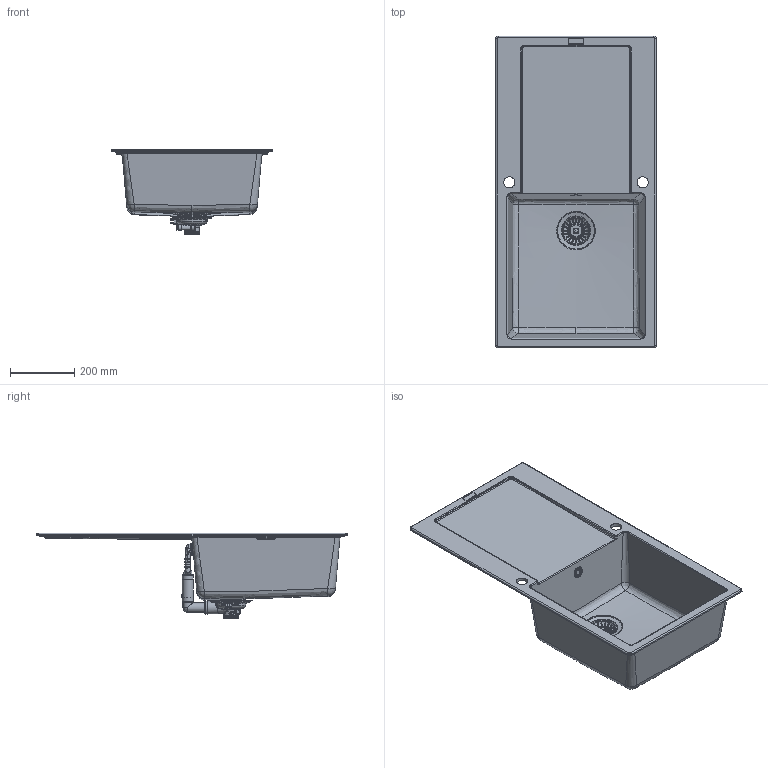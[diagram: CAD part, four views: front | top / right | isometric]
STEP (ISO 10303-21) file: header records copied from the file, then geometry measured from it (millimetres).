
FILE_DESCRIPTION(/* description */ ('MRG 611-97'),/* implementation_level */ '2;1');
FILE_NAME(/* name */ 'C:\temp_conversion\PE1_100\0050569F32AD1EDCB88142202C4094A5\in\20127597_TPM_000.step',/* time_stamp */ '2022-05-30T13:29:32+02:00',/* author */ (''),/* organization */ (''),/* preprocessor_version */ 'ST-DEVELOPER v18.1',/* originating_system */ 'Autodesk Inventor 2021',/* authorisation */ '');
FILE_SCHEMA (('AUTOMOTIVE_DESIGN { 1 0 10303 214 3 1 1 }'));
Products named in the file (1): 0056-217742
Bounding box: 500 x 970 x 266 mm (x, y, z)
Volume: 6470523 mm3; surface area: 1687933.7 mm2
Topology: 2 solids, 24 shells, 4533 faces, 12108 edges, 7672 vertices
Faces by surface type: plane 2054, bspline 1212, cylinder 526, torus 417, cone 283, sphere 41
Full cylindrical faces by diameter (mm): 3.242 x1, 4 x1, 4.5 x2, 4.7 x1, 4.85 x1, 5.2 x1, 5.25 x1, 5.85 x2, 6 x5, 6.2 x1, 7 x1, 8 x3, 8.25 x1, 11.003 x8, 12 x1, 12.5 x9, 12.6 x1, 13.743 x1, 14.3 x1, 16 x1, 16.941 x1, 17.853 x1, 26 x2, 27 x1, 27.5 x1, 30 x5, 31 x1, 33.75 x1, 34 x2, 35 x2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
Entity records: 200050 total; most frequent: CARTESIAN_POINT 89971, ORIENTED_EDGE 24068, DIRECTION 18602, EDGE_CURVE 12034, VERTEX_POINT 7672, AXIS2_PLACEMENT_3D 6231, LINE 6140, VECTOR 6140
